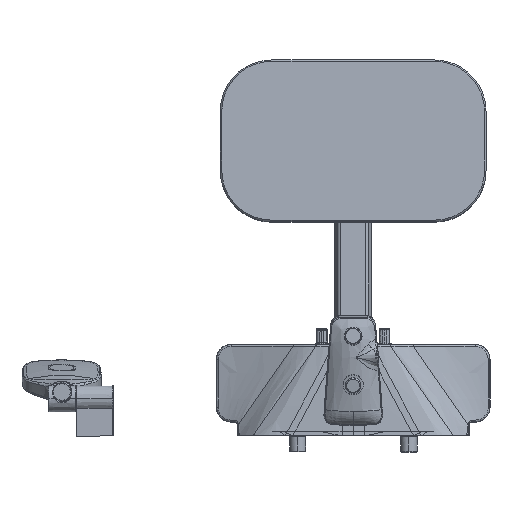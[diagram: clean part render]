
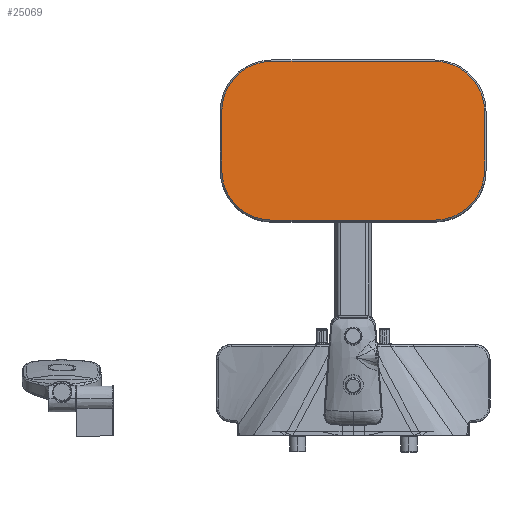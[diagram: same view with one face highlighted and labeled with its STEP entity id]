
A CAD part, front view. The second image highlights one B-rep face of the part: STEP entity #25069.
In plain terms, the highlighted planar face has unit normal (0, -0.996, 0.087).
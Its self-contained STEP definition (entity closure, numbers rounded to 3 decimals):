
#579 = EDGE_CURVE ( 'NONE', #45612, #58673, #24847, .T. ) ;
#1107 = VECTOR ( 'NONE', #21281, 1000. ) ;
#1200 = DIRECTION ( 'NONE',  ( -1., 0., 0. ) ) ;
#3410 = ORIENTED_EDGE ( 'NONE', *, *, #8880, .T. ) ;
#3426 = CARTESIAN_POINT ( 'NONE',  ( -110., 1021.633, 358.568 ) ) ;
#3981 = CIRCLE ( 'NONE', #39605, 68. ) ;
#6168 = DIRECTION ( 'NONE',  ( 0., -0.996, 0.087 ) ) ;
#7501 = CARTESIAN_POINT ( 'NONE',  ( 110., 1021.633, 358.568 ) ) ;
#8637 = ORIENTED_EDGE ( 'NONE', *, *, #40455, .T. ) ;
#8880 = EDGE_CURVE ( 'NONE', #59375, #12997, #59326, .T. ) ;
#11150 = DIRECTION ( 'NONE',  ( -1., 0., 0. ) ) ;
#11520 = CARTESIAN_POINT ( 'NONE',  ( -110., 1034.532, 506.005 ) ) ;
#12997 = VERTEX_POINT ( 'NONE', #21413 ) ;
#14767 = VERTEX_POINT ( 'NONE', #51147 ) ;
#15255 = DIRECTION ( 'NONE',  ( 1., 0., 0. ) ) ;
#15269 = CIRCLE ( 'NONE', #58010, 68. ) ;
#15294 = CARTESIAN_POINT ( 'NONE',  ( -110., 1028.605, 438.264 ) ) ;
#17153 = VECTOR ( 'NONE', #15255, 1000. ) ;
#17661 = ORIENTED_EDGE ( 'NONE', *, *, #59999, .T. ) ;
#18362 = AXIS2_PLACEMENT_3D ( 'NONE', #3426, #47130, #1200 ) ;
#19090 = ORIENTED_EDGE ( 'NONE', *, *, #22515, .T. ) ;
#19301 = EDGE_CURVE ( 'NONE', #58673, #14767, #23500, .T. ) ;
#19327 = AXIS2_PLACEMENT_3D ( 'NONE', #44247, #35388, #23374 ) ;
#19512 = AXIS2_PLACEMENT_3D ( 'NONE', #7501, #41584, #36284 ) ;
#19989 = CARTESIAN_POINT ( 'NONE',  ( -178., 1021.633, 358.568 ) ) ;
#20201 = DIRECTION ( 'NONE',  ( 0., -0.996, 0.087 ) ) ;
#20530 = CARTESIAN_POINT ( 'NONE',  ( 178., 1028.605, 438.264 ) ) ;
#20920 = CARTESIAN_POINT ( 'NONE',  ( 110., 1015.706, 290.827 ) ) ;
#21281 = DIRECTION ( 'NONE',  ( -1., 0., 0. ) ) ;
#21413 = CARTESIAN_POINT ( 'NONE',  ( 178., 1021.633, 358.568 ) ) ;
#22515 = EDGE_CURVE ( 'NONE', #14767, #59375, #43521, .T. ) ;
#22735 = LINE ( 'NONE', #11520, #1107 ) ;
#23374 = DIRECTION ( 'NONE',  ( -1., 0., 0. ) ) ;
#23500 = CIRCLE ( 'NONE', #18362, 68. ) ;
#24516 = DIRECTION ( 'NONE',  ( 0., 0.087, 0.996 ) ) ;
#24847 = LINE ( 'NONE', #19989, #40593 ) ;
#25069 = ADVANCED_FACE ( 'NONE', ( #54592 ), #47160, .F. ) ;
#35150 = EDGE_CURVE ( 'NONE', #59886, #45612, #3981, .T. ) ;
#35388 = DIRECTION ( 'NONE',  ( 0., -0.996, 0.087 ) ) ;
#36284 = DIRECTION ( 'NONE',  ( -1., 0., 0. ) ) ;
#36415 = CARTESIAN_POINT ( 'NONE',  ( -178., 1021.633, 358.568 ) ) ;
#37514 = VERTEX_POINT ( 'NONE', #48428 ) ;
#37657 = EDGE_CURVE ( 'NONE', #37514, #46436, #15269, .T. ) ;
#37778 = CARTESIAN_POINT ( 'NONE',  ( 110., 1015.706, 290.827 ) ) ;
#38444 = DIRECTION ( 'NONE',  ( -1., 0., 0. ) ) ;
#38532 = ORIENTED_EDGE ( 'NONE', *, *, #35150, .T. ) ;
#39052 = VECTOR ( 'NONE', #24516, 1000. ) ;
#39605 = AXIS2_PLACEMENT_3D ( 'NONE', #15294, #20201, #38444 ) ;
#40455 = EDGE_CURVE ( 'NONE', #12997, #37514, #61762, .T. ) ;
#40593 = VECTOR ( 'NONE', #47194, 1000. ) ;
#40729 = CARTESIAN_POINT ( 'NONE',  ( -178., 1028.605, 438.264 ) ) ;
#41584 = DIRECTION ( 'NONE',  ( 0., 0.996, -0.087 ) ) ;
#43521 = LINE ( 'NONE', #37778, #17153 ) ;
#44247 = CARTESIAN_POINT ( 'NONE',  ( 110., 1021.633, 358.568 ) ) ;
#44785 = EDGE_LOOP ( 'NONE', ( #17661, #38532, #58527, #56771, #19090, #3410, #8637, #45574 ) ) ;
#45574 = ORIENTED_EDGE ( 'NONE', *, *, #37657, .T. ) ;
#45612 = VERTEX_POINT ( 'NONE', #40729 ) ;
#46436 = VERTEX_POINT ( 'NONE', #61195 ) ;
#47130 = DIRECTION ( 'NONE',  ( 0., -0.996, 0.087 ) ) ;
#47160 = PLANE ( 'NONE',  #19512 ) ;
#47194 = DIRECTION ( 'NONE',  ( 0., -0.087, -0.996 ) ) ;
#48428 = CARTESIAN_POINT ( 'NONE',  ( 178., 1028.605, 438.264 ) ) ;
#51147 = CARTESIAN_POINT ( 'NONE',  ( -110., 1015.706, 290.827 ) ) ;
#54592 = FACE_OUTER_BOUND ( 'NONE', #44785, .T. ) ;
#55931 = CARTESIAN_POINT ( 'NONE',  ( 110., 1028.605, 438.264 ) ) ;
#56771 = ORIENTED_EDGE ( 'NONE', *, *, #19301, .T. ) ;
#58010 = AXIS2_PLACEMENT_3D ( 'NONE', #55931, #6168, #11150 ) ;
#58527 = ORIENTED_EDGE ( 'NONE', *, *, #579, .T. ) ;
#58673 = VERTEX_POINT ( 'NONE', #36415 ) ;
#59326 = CIRCLE ( 'NONE', #19327, 68. ) ;
#59375 = VERTEX_POINT ( 'NONE', #20920 ) ;
#59611 = CARTESIAN_POINT ( 'NONE',  ( -110., 1034.532, 506.005 ) ) ;
#59886 = VERTEX_POINT ( 'NONE', #59611 ) ;
#59999 = EDGE_CURVE ( 'NONE', #46436, #59886, #22735, .T. ) ;
#61195 = CARTESIAN_POINT ( 'NONE',  ( 110., 1034.532, 506.005 ) ) ;
#61762 = LINE ( 'NONE', #20530, #39052 ) ;
